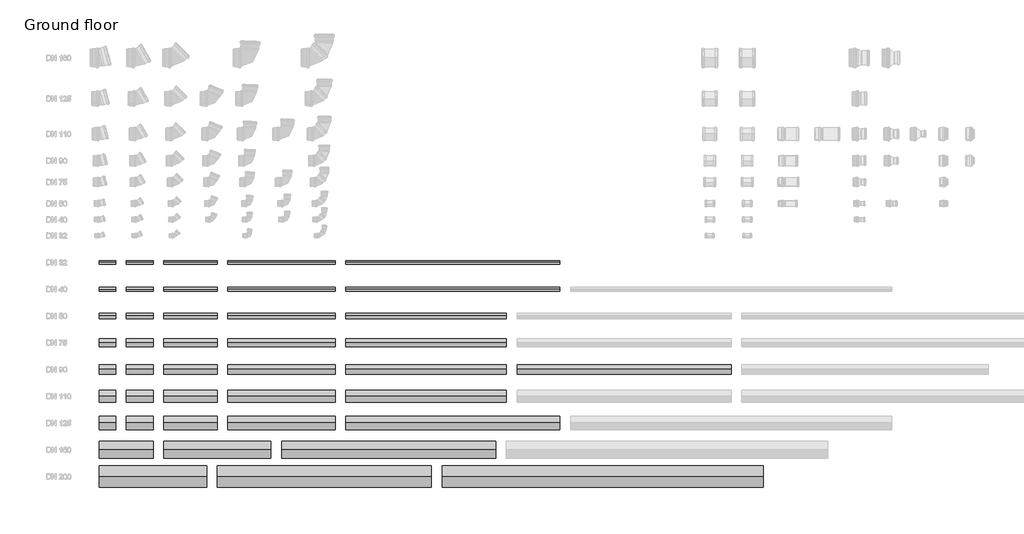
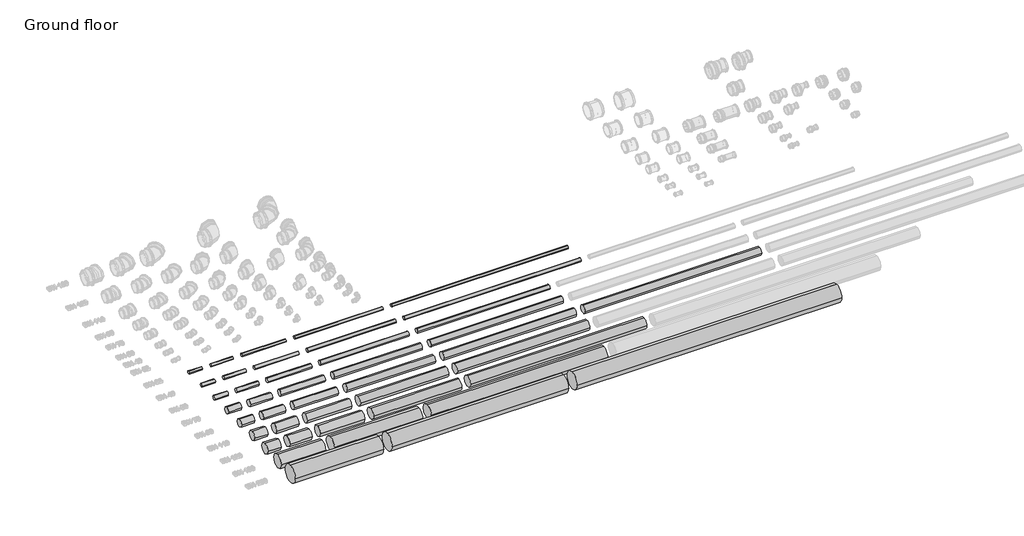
# One storey, part 1 of 9: 42 pipe segments.
"""IFC4 building model written with IfcOpenShell, lengths in millimetres."""

from ifc_helpers import new_model, si_unit, point, frame, frame_2d, origin, place, context, project, spatial, circle_curve, trimmed, segment, composite_curve, outline, extrude, element, save

model = new_model("IFC4")

# Units and contexts
model_context = context("Model", 3, world=origin())
ifc_project = project(units=[si_unit("LENGTHUNIT", "METRE", prefix="MILLI")], contexts=[model_context])

# Site, building, storey
site = spatial("IfcSite", under=ifc_project)
building = spatial("IfcBuilding", under=site)
storey = spatial("IfcBuildingStorey", under=building, Name="Ground floor", Elevation=0.0)

# Pipe segments
placement = place(None, origin())
element("IfcPipeSegment", 1, ObjectType="RAUPIANO PLUS", at=placement, inside=storey, context=model_context, shape_type="SweptSolid", body=[
    extrude(outline(composite_curve([segment(trimmed(circle_curve(frame_2d((-250.0, 0.0)), 16.0), [point((-266.0, 0.0))], [point((-250.0, 16.0))], False, "CARTESIAN"), True, "CONTINUOUS"), segment(trimmed(circle_curve(frame_2d((-250.0, 0.0)), 16.0), [point((-250.0, 16.0))], [point((-234.0, 0.0))], False, "CARTESIAN"), True, "CONTINUOUS"), segment(trimmed(circle_curve(frame_2d((-250.0, 0.0)), 16.0), [point((-234.0, 0.0))], [point((-250.0, -16.0))], False, "CARTESIAN"), True, "CONTINUOUS"), segment(trimmed(circle_curve(frame_2d((-250.0, 0.0)), 16.0), [point((-250.0, -16.0))], [point((-266.0, 0.0))], False, "CARTESIAN"), True, "CONTINUOUS")], self_intersect=False)), frame((0.0, 0.0, 0.0), z_axis=(1.0, 0.0, 0.0), x_axis=(0.0, 1.0, 0.0)), (0.0, 0.0, 1.0), 150.0),
])
element("IfcPipeSegment", 2, ObjectType="RAUPIANO PLUS", at=placement, inside=storey, context=model_context, shape_type="SweptSolid", body=[
    extrude(outline(composite_curve([segment(trimmed(circle_curve(frame_2d((-250.0, 0.0)), 16.0), [point((-266.0, 0.0))], [point((-250.0, 16.0))], False, "CARTESIAN"), True, "CONTINUOUS"), segment(trimmed(circle_curve(frame_2d((-250.0, 0.0)), 16.0), [point((-250.0, 16.0))], [point((-234.0, 0.0))], False, "CARTESIAN"), True, "CONTINUOUS"), segment(trimmed(circle_curve(frame_2d((-250.0, 0.0)), 16.0), [point((-234.0, 0.0))], [point((-250.0, -16.0))], False, "CARTESIAN"), True, "CONTINUOUS"), segment(trimmed(circle_curve(frame_2d((-250.0, 0.0)), 16.0), [point((-250.0, -16.0))], [point((-266.0, 0.0))], False, "CARTESIAN"), True, "CONTINUOUS")], self_intersect=False)), frame((250.0, 0.0, 0.0), z_axis=(1.0, 0.0, 0.0), x_axis=(0.0, 1.0, 0.0)), (0.0, 0.0, 1.0), 250.0),
])
element("IfcPipeSegment", 3, ObjectType="RAUPIANO PLUS", at=placement, inside=storey, context=model_context, shape_type="SweptSolid", body=[
    extrude(outline(composite_curve([segment(trimmed(circle_curve(frame_2d((-250.0, 0.0)), 16.0), [point((-266.0, 0.0))], [point((-250.0, 16.0))], False, "CARTESIAN"), True, "CONTINUOUS"), segment(trimmed(circle_curve(frame_2d((-250.0, 0.0)), 16.0), [point((-250.0, 16.0))], [point((-234.0, 0.0))], False, "CARTESIAN"), True, "CONTINUOUS"), segment(trimmed(circle_curve(frame_2d((-250.0, 0.0)), 16.0), [point((-234.0, 0.0))], [point((-250.0, -16.0))], False, "CARTESIAN"), True, "CONTINUOUS"), segment(trimmed(circle_curve(frame_2d((-250.0, 0.0)), 16.0), [point((-250.0, -16.0))], [point((-266.0, 0.0))], False, "CARTESIAN"), True, "CONTINUOUS")], self_intersect=False)), frame((600.0, 0.0, 0.0), z_axis=(1.0, 0.0, 0.0), x_axis=(0.0, 1.0, 0.0)), (0.0, 0.0, 1.0), 500.0),
])
element("IfcPipeSegment", 4, ObjectType="RAUPIANO PLUS", at=placement, inside=storey, context=model_context, shape_type="SweptSolid", body=[
    extrude(outline(composite_curve([segment(trimmed(circle_curve(frame_2d((-250.0, 0.0)), 16.0), [point((-266.0, 0.0))], [point((-250.0, 16.0))], False, "CARTESIAN"), True, "CONTINUOUS"), segment(trimmed(circle_curve(frame_2d((-250.0, 0.0)), 16.0), [point((-250.0, 16.0))], [point((-234.0, 0.0))], False, "CARTESIAN"), True, "CONTINUOUS"), segment(trimmed(circle_curve(frame_2d((-250.0, 0.0)), 16.0), [point((-234.0, 0.0))], [point((-250.0, -16.0))], False, "CARTESIAN"), True, "CONTINUOUS"), segment(trimmed(circle_curve(frame_2d((-250.0, 0.0)), 16.0), [point((-250.0, -16.0))], [point((-266.0, 0.0))], False, "CARTESIAN"), True, "CONTINUOUS")], self_intersect=False)), frame((1200.0, 0.0, 0.0), z_axis=(1.0, 0.0, 0.0), x_axis=(0.0, 1.0, 0.0)), (0.0, 0.0, 1.0), 1000.0),
])
element("IfcPipeSegment", 5, ObjectType="RAUPIANO PLUS", at=placement, inside=storey, context=model_context, shape_type="SweptSolid", body=[
    extrude(outline(composite_curve([segment(trimmed(circle_curve(frame_2d((-250.0, 0.0)), 16.0), [point((-266.0, 0.0))], [point((-250.0, 16.0))], False, "CARTESIAN"), True, "CONTINUOUS"), segment(trimmed(circle_curve(frame_2d((-250.0, 0.0)), 16.0), [point((-250.0, 16.0))], [point((-234.0, 0.0))], False, "CARTESIAN"), True, "CONTINUOUS"), segment(trimmed(circle_curve(frame_2d((-250.0, 0.0)), 16.0), [point((-234.0, 0.0))], [point((-250.0, -16.0))], False, "CARTESIAN"), True, "CONTINUOUS"), segment(trimmed(circle_curve(frame_2d((-250.0, 0.0)), 16.0), [point((-250.0, -16.0))], [point((-266.0, 0.0))], False, "CARTESIAN"), True, "CONTINUOUS")], self_intersect=False)), frame((2300.0, 0.0, 0.0), z_axis=(1.0, 0.0, 0.0), x_axis=(0.0, 1.0, 0.0)), (0.0, 0.0, 1.0), 2000.0),
])
element("IfcPipeSegment", 6, ObjectType="RAUPIANO PLUS", at=placement, inside=storey, context=model_context, shape_type="SweptSolid", body=[
    extrude(outline(composite_curve([segment(trimmed(circle_curve(frame_2d((-500.0, 0.0)), 20.0), [point((-520.0, 0.0))], [point((-500.0, 20.0))], False, "CARTESIAN"), True, "CONTINUOUS"), segment(trimmed(circle_curve(frame_2d((-500.0, 0.0)), 20.0), [point((-500.0, 20.0))], [point((-480.0, 0.0))], False, "CARTESIAN"), True, "CONTINUOUS"), segment(trimmed(circle_curve(frame_2d((-500.0, 0.0)), 20.0), [point((-480.0, 0.0))], [point((-500.0, -20.0))], False, "CARTESIAN"), True, "CONTINUOUS"), segment(trimmed(circle_curve(frame_2d((-500.0, 0.0)), 20.0), [point((-500.0, -20.0))], [point((-520.0, 0.0))], False, "CARTESIAN"), True, "CONTINUOUS")], self_intersect=False)), frame((0.0, 0.0, 0.0), z_axis=(1.0, 0.0, 0.0), x_axis=(0.0, 1.0, 0.0)), (0.0, 0.0, 1.0), 150.0),
])
element("IfcPipeSegment", 7, ObjectType="RAUPIANO PLUS", at=placement, inside=storey, context=model_context, shape_type="SweptSolid", body=[
    extrude(outline(composite_curve([segment(trimmed(circle_curve(frame_2d((-500.0, 0.0)), 20.0), [point((-520.0, 0.0))], [point((-500.0, 20.0))], False, "CARTESIAN"), True, "CONTINUOUS"), segment(trimmed(circle_curve(frame_2d((-500.0, 0.0)), 20.0), [point((-500.0, 20.0))], [point((-480.0, 0.0))], False, "CARTESIAN"), True, "CONTINUOUS"), segment(trimmed(circle_curve(frame_2d((-500.0, 0.0)), 20.0), [point((-480.0, 0.0))], [point((-500.0, -20.0))], False, "CARTESIAN"), True, "CONTINUOUS"), segment(trimmed(circle_curve(frame_2d((-500.0, 0.0)), 20.0), [point((-500.0, -20.0))], [point((-520.0, 0.0))], False, "CARTESIAN"), True, "CONTINUOUS")], self_intersect=False)), frame((250.0, 0.0, 0.0), z_axis=(1.0, 0.0, 0.0), x_axis=(0.0, 1.0, 0.0)), (0.0, 0.0, 1.0), 250.0),
])
element("IfcPipeSegment", 8, ObjectType="RAUPIANO PLUS", at=placement, inside=storey, context=model_context, shape_type="SweptSolid", body=[
    extrude(outline(composite_curve([segment(trimmed(circle_curve(frame_2d((-500.0, 0.0)), 20.0), [point((-520.0, 0.0))], [point((-500.0, 20.0))], False, "CARTESIAN"), True, "CONTINUOUS"), segment(trimmed(circle_curve(frame_2d((-500.0, 0.0)), 20.0), [point((-500.0, 20.0))], [point((-480.0, 0.0))], False, "CARTESIAN"), True, "CONTINUOUS"), segment(trimmed(circle_curve(frame_2d((-500.0, 0.0)), 20.0), [point((-480.0, 0.0))], [point((-500.0, -20.0))], False, "CARTESIAN"), True, "CONTINUOUS"), segment(trimmed(circle_curve(frame_2d((-500.0, 0.0)), 20.0), [point((-500.0, -20.0))], [point((-520.0, 0.0))], False, "CARTESIAN"), True, "CONTINUOUS")], self_intersect=False)), frame((600.0, 0.0, 0.0), z_axis=(1.0, 0.0, 0.0), x_axis=(0.0, 1.0, 0.0)), (0.0, 0.0, 1.0), 500.0),
])
element("IfcPipeSegment", 9, ObjectType="RAUPIANO PLUS", at=placement, inside=storey, context=model_context, shape_type="SweptSolid", body=[
    extrude(outline(composite_curve([segment(trimmed(circle_curve(frame_2d((-500.0, 0.0)), 20.0), [point((-520.0, 0.0))], [point((-500.0, 20.0))], False, "CARTESIAN"), True, "CONTINUOUS"), segment(trimmed(circle_curve(frame_2d((-500.0, 0.0)), 20.0), [point((-500.0, 20.0))], [point((-480.0, 0.0))], False, "CARTESIAN"), True, "CONTINUOUS"), segment(trimmed(circle_curve(frame_2d((-500.0, 0.0)), 20.0), [point((-480.0, 0.0))], [point((-500.0, -20.0))], False, "CARTESIAN"), True, "CONTINUOUS"), segment(trimmed(circle_curve(frame_2d((-500.0, 0.0)), 20.0), [point((-500.0, -20.0))], [point((-520.0, 0.0))], False, "CARTESIAN"), True, "CONTINUOUS")], self_intersect=False)), frame((1200.0, 0.0, 0.0), z_axis=(1.0, 0.0, 0.0), x_axis=(0.0, 1.0, 0.0)), (0.0, 0.0, 1.0), 1000.0),
])
element("IfcPipeSegment", 10, ObjectType="RAUPIANO PLUS", at=placement, inside=storey, context=model_context, shape_type="SweptSolid", body=[
    extrude(outline(composite_curve([segment(trimmed(circle_curve(frame_2d((-500.0, 0.0)), 20.0), [point((-520.0, 0.0))], [point((-500.0, 20.0))], False, "CARTESIAN"), True, "CONTINUOUS"), segment(trimmed(circle_curve(frame_2d((-500.0, 0.0)), 20.0), [point((-500.0, 20.0))], [point((-480.0, 0.0))], False, "CARTESIAN"), True, "CONTINUOUS"), segment(trimmed(circle_curve(frame_2d((-500.0, 0.0)), 20.0), [point((-480.0, 0.0))], [point((-500.0, -20.0))], False, "CARTESIAN"), True, "CONTINUOUS"), segment(trimmed(circle_curve(frame_2d((-500.0, 0.0)), 20.0), [point((-500.0, -20.0))], [point((-520.0, 0.0))], False, "CARTESIAN"), True, "CONTINUOUS")], self_intersect=False)), frame((2300.0, 0.0, 0.0), z_axis=(1.0, 0.0, 0.0), x_axis=(0.0, 1.0, 0.0)), (0.0, 0.0, 1.0), 2000.0),
])
element("IfcPipeSegment", 11, ObjectType="RAUPIANO PLUS", at=placement, inside=storey, context=model_context, shape_type="SweptSolid", body=[
    extrude(outline(composite_curve([segment(trimmed(circle_curve(frame_2d((-750.0, 0.0)), 25.0), [point((-775.0, 0.0))], [point((-750.0, 25.0))], False, "CARTESIAN"), True, "CONTINUOUS"), segment(trimmed(circle_curve(frame_2d((-750.0, 0.0)), 25.0), [point((-750.0, 25.0))], [point((-725.0, 0.0))], False, "CARTESIAN"), True, "CONTINUOUS"), segment(trimmed(circle_curve(frame_2d((-750.0, 0.0)), 25.0), [point((-725.0, 0.0))], [point((-750.0, -25.0))], False, "CARTESIAN"), True, "CONTINUOUS"), segment(trimmed(circle_curve(frame_2d((-750.0, 0.0)), 25.0), [point((-750.0, -25.0))], [point((-775.0, 0.0))], False, "CARTESIAN"), True, "CONTINUOUS")], self_intersect=False)), frame((0.0, 0.0, 0.0), z_axis=(1.0, 0.0, 0.0), x_axis=(0.0, 1.0, 0.0)), (0.0, 0.0, 1.0), 150.0),
])
element("IfcPipeSegment", 12, ObjectType="RAUPIANO PLUS", at=placement, inside=storey, context=model_context, shape_type="SweptSolid", body=[
    extrude(outline(composite_curve([segment(trimmed(circle_curve(frame_2d((-750.0, 0.0)), 25.0), [point((-775.0, 0.0))], [point((-750.0, 25.0))], False, "CARTESIAN"), True, "CONTINUOUS"), segment(trimmed(circle_curve(frame_2d((-750.0, 0.0)), 25.0), [point((-750.0, 25.0))], [point((-725.0, 0.0))], False, "CARTESIAN"), True, "CONTINUOUS"), segment(trimmed(circle_curve(frame_2d((-750.0, 0.0)), 25.0), [point((-725.0, 0.0))], [point((-750.0, -25.0))], False, "CARTESIAN"), True, "CONTINUOUS"), segment(trimmed(circle_curve(frame_2d((-750.0, 0.0)), 25.0), [point((-750.0, -25.0))], [point((-775.0, 0.0))], False, "CARTESIAN"), True, "CONTINUOUS")], self_intersect=False)), frame((250.0, 0.0, 0.0), z_axis=(1.0, 0.0, 0.0), x_axis=(0.0, 1.0, 0.0)), (0.0, 0.0, 1.0), 250.0),
])
element("IfcPipeSegment", 13, ObjectType="RAUPIANO PLUS", at=placement, inside=storey, context=model_context, shape_type="SweptSolid", body=[
    extrude(outline(composite_curve([segment(trimmed(circle_curve(frame_2d((-750.0, 0.0)), 25.0), [point((-775.0, 0.0))], [point((-750.0, 25.0))], False, "CARTESIAN"), True, "CONTINUOUS"), segment(trimmed(circle_curve(frame_2d((-750.0, 0.0)), 25.0), [point((-750.0, 25.0))], [point((-725.0, 0.0))], False, "CARTESIAN"), True, "CONTINUOUS"), segment(trimmed(circle_curve(frame_2d((-750.0, 0.0)), 25.0), [point((-725.0, 0.0))], [point((-750.0, -25.0))], False, "CARTESIAN"), True, "CONTINUOUS"), segment(trimmed(circle_curve(frame_2d((-750.0, 0.0)), 25.0), [point((-750.0, -25.0))], [point((-775.0, 0.0))], False, "CARTESIAN"), True, "CONTINUOUS")], self_intersect=False)), frame((600.0, 0.0, 0.0), z_axis=(1.0, 0.0, 0.0), x_axis=(0.0, 1.0, 0.0)), (0.0, 0.0, 1.0), 500.0),
])
element("IfcPipeSegment", 14, ObjectType="RAUPIANO PLUS", at=placement, inside=storey, context=model_context, shape_type="SweptSolid", body=[
    extrude(outline(composite_curve([segment(trimmed(circle_curve(frame_2d((-750.0, 0.0)), 25.0), [point((-775.0, 0.0))], [point((-750.0, 25.0))], False, "CARTESIAN"), True, "CONTINUOUS"), segment(trimmed(circle_curve(frame_2d((-750.0, 0.0)), 25.0), [point((-750.0, 25.0))], [point((-725.0, 0.0))], False, "CARTESIAN"), True, "CONTINUOUS"), segment(trimmed(circle_curve(frame_2d((-750.0, 0.0)), 25.0), [point((-725.0, 0.0))], [point((-750.0, -25.0))], False, "CARTESIAN"), True, "CONTINUOUS"), segment(trimmed(circle_curve(frame_2d((-750.0, 0.0)), 25.0), [point((-750.0, -25.0))], [point((-775.0, 0.0))], False, "CARTESIAN"), True, "CONTINUOUS")], self_intersect=False)), frame((1200.0, 0.0, 0.0), z_axis=(1.0, 0.0, 0.0), x_axis=(0.0, 1.0, 0.0)), (0.0, 0.0, 1.0), 1000.0),
])
element("IfcPipeSegment", 15, ObjectType="RAUPIANO PLUS", at=placement, inside=storey, context=model_context, shape_type="SweptSolid", body=[
    extrude(outline(composite_curve([segment(trimmed(circle_curve(frame_2d((-750.0, 0.0)), 25.0), [point((-775.0, 0.0))], [point((-750.0, 25.0))], False, "CARTESIAN"), True, "CONTINUOUS"), segment(trimmed(circle_curve(frame_2d((-750.0, 0.0)), 25.0), [point((-750.0, 25.0))], [point((-725.0, 0.0))], False, "CARTESIAN"), True, "CONTINUOUS"), segment(trimmed(circle_curve(frame_2d((-750.0, 0.0)), 25.0), [point((-725.0, 0.0))], [point((-750.0, -25.0))], False, "CARTESIAN"), True, "CONTINUOUS"), segment(trimmed(circle_curve(frame_2d((-750.0, 0.0)), 25.0), [point((-750.0, -25.0))], [point((-775.0, 0.0))], False, "CARTESIAN"), True, "CONTINUOUS")], self_intersect=False)), frame((2300.0, 0.0, 0.0), z_axis=(1.0, 0.0, 0.0), x_axis=(0.0, 1.0, 0.0)), (0.0, 0.0, 1.0), 1500.0),
])
element("IfcPipeSegment", 16, ObjectType="RAUPIANO PLUS", at=placement, inside=storey, context=model_context, shape_type="SweptSolid", body=[
    extrude(outline(composite_curve([segment(trimmed(circle_curve(frame_2d((-1000.0, 0.0)), 37.5), [point((-1037.5, 0.0))], [point((-1000.0, 37.5))], False, "CARTESIAN"), True, "CONTINUOUS"), segment(trimmed(circle_curve(frame_2d((-1000.0, 0.0)), 37.5), [point((-1000.0, 37.5))], [point((-962.5, 0.0))], False, "CARTESIAN"), True, "CONTINUOUS"), segment(trimmed(circle_curve(frame_2d((-1000.0, 0.0)), 37.5), [point((-962.5, 0.0))], [point((-1000.0, -37.5))], False, "CARTESIAN"), True, "CONTINUOUS"), segment(trimmed(circle_curve(frame_2d((-1000.0, 0.0)), 37.5), [point((-1000.0, -37.5))], [point((-1037.5, 0.0))], False, "CARTESIAN"), True, "CONTINUOUS")], self_intersect=False)), frame((0.0, 0.0, 0.0), z_axis=(1.0, 0.0, 0.0), x_axis=(0.0, 1.0, 0.0)), (0.0, 0.0, 1.0), 150.0),
])
element("IfcPipeSegment", 17, ObjectType="RAUPIANO PLUS", at=placement, inside=storey, context=model_context, shape_type="SweptSolid", body=[
    extrude(outline(composite_curve([segment(trimmed(circle_curve(frame_2d((-1000.0, 0.0)), 37.5), [point((-1037.5, 0.0))], [point((-1000.0, 37.5))], False, "CARTESIAN"), True, "CONTINUOUS"), segment(trimmed(circle_curve(frame_2d((-1000.0, 0.0)), 37.5), [point((-1000.0, 37.5))], [point((-962.5, 0.0))], False, "CARTESIAN"), True, "CONTINUOUS"), segment(trimmed(circle_curve(frame_2d((-1000.0, 0.0)), 37.5), [point((-962.5, 0.0))], [point((-1000.0, -37.5))], False, "CARTESIAN"), True, "CONTINUOUS"), segment(trimmed(circle_curve(frame_2d((-1000.0, 0.0)), 37.5), [point((-1000.0, -37.5))], [point((-1037.5, 0.0))], False, "CARTESIAN"), True, "CONTINUOUS")], self_intersect=False)), frame((250.0, 0.0, 0.0), z_axis=(1.0, 0.0, 0.0), x_axis=(0.0, 1.0, 0.0)), (0.0, 0.0, 1.0), 250.0),
])
element("IfcPipeSegment", 18, ObjectType="RAUPIANO PLUS", at=placement, inside=storey, context=model_context, shape_type="SweptSolid", body=[
    extrude(outline(composite_curve([segment(trimmed(circle_curve(frame_2d((-1000.0, 0.0)), 37.5), [point((-1037.5, 0.0))], [point((-1000.0, 37.5))], False, "CARTESIAN"), True, "CONTINUOUS"), segment(trimmed(circle_curve(frame_2d((-1000.0, 0.0)), 37.5), [point((-1000.0, 37.5))], [point((-962.5, 0.0))], False, "CARTESIAN"), True, "CONTINUOUS"), segment(trimmed(circle_curve(frame_2d((-1000.0, 0.0)), 37.5), [point((-962.5, 0.0))], [point((-1000.0, -37.5))], False, "CARTESIAN"), True, "CONTINUOUS"), segment(trimmed(circle_curve(frame_2d((-1000.0, 0.0)), 37.5), [point((-1000.0, -37.5))], [point((-1037.5, 0.0))], False, "CARTESIAN"), True, "CONTINUOUS")], self_intersect=False)), frame((600.0, 0.0, 0.0), z_axis=(1.0, 0.0, 0.0), x_axis=(0.0, 1.0, 0.0)), (0.0, 0.0, 1.0), 500.0),
])
element("IfcPipeSegment", 19, ObjectType="RAUPIANO PLUS", at=placement, inside=storey, context=model_context, shape_type="SweptSolid", body=[
    extrude(outline(composite_curve([segment(trimmed(circle_curve(frame_2d((-1000.0, 0.0)), 37.5), [point((-1037.5, 0.0))], [point((-1000.0, 37.5))], False, "CARTESIAN"), True, "CONTINUOUS"), segment(trimmed(circle_curve(frame_2d((-1000.0, 0.0)), 37.5), [point((-1000.0, 37.5))], [point((-962.5, 0.0))], False, "CARTESIAN"), True, "CONTINUOUS"), segment(trimmed(circle_curve(frame_2d((-1000.0, 0.0)), 37.5), [point((-962.5, 0.0))], [point((-1000.0, -37.5))], False, "CARTESIAN"), True, "CONTINUOUS"), segment(trimmed(circle_curve(frame_2d((-1000.0, 0.0)), 37.5), [point((-1000.0, -37.5))], [point((-1037.5, 0.0))], False, "CARTESIAN"), True, "CONTINUOUS")], self_intersect=False)), frame((1200.0, 0.0, 0.0), z_axis=(1.0, 0.0, 0.0), x_axis=(0.0, 1.0, 0.0)), (0.0, 0.0, 1.0), 1000.0),
])
element("IfcPipeSegment", 20, ObjectType="RAUPIANO PLUS", at=placement, inside=storey, context=model_context, shape_type="SweptSolid", body=[
    extrude(outline(composite_curve([segment(trimmed(circle_curve(frame_2d((-1000.0, 0.0)), 37.5), [point((-1037.5, 0.0))], [point((-1000.0, 37.5))], False, "CARTESIAN"), True, "CONTINUOUS"), segment(trimmed(circle_curve(frame_2d((-1000.0, 0.0)), 37.5), [point((-1000.0, 37.5))], [point((-962.5, 0.0))], False, "CARTESIAN"), True, "CONTINUOUS"), segment(trimmed(circle_curve(frame_2d((-1000.0, 0.0)), 37.5), [point((-962.5, 0.0))], [point((-1000.0, -37.5))], False, "CARTESIAN"), True, "CONTINUOUS"), segment(trimmed(circle_curve(frame_2d((-1000.0, 0.0)), 37.5), [point((-1000.0, -37.5))], [point((-1037.5, 0.0))], False, "CARTESIAN"), True, "CONTINUOUS")], self_intersect=False)), frame((2300.0, 0.0, 0.0), z_axis=(1.0, 0.0, 0.0), x_axis=(0.0, 1.0, 0.0)), (0.0, 0.0, 1.0), 1500.0),
])
element("IfcPipeSegment", 21, ObjectType="RAUPIANO PLUS", at=placement, inside=storey, context=model_context, shape_type="SweptSolid", body=[
    extrude(outline(composite_curve([segment(trimmed(circle_curve(frame_2d((-1250.0, 0.0)), 45.0), [point((-1295.0, 0.0))], [point((-1250.0, 45.0))], False, "CARTESIAN"), True, "CONTINUOUS"), segment(trimmed(circle_curve(frame_2d((-1250.0, 0.0)), 45.0), [point((-1250.0, 45.0))], [point((-1205.0, 0.0))], False, "CARTESIAN"), True, "CONTINUOUS"), segment(trimmed(circle_curve(frame_2d((-1250.0, 0.0)), 45.0), [point((-1205.0, 0.0))], [point((-1250.0, -45.0))], False, "CARTESIAN"), True, "CONTINUOUS"), segment(trimmed(circle_curve(frame_2d((-1250.0, 0.0)), 45.0), [point((-1250.0, -45.0))], [point((-1295.0, 0.0))], False, "CARTESIAN"), True, "CONTINUOUS")], self_intersect=False)), frame((0.0, 0.0, 0.0), z_axis=(1.0, 0.0, 0.0), x_axis=(0.0, 1.0, 0.0)), (0.0, 0.0, 1.0), 150.0),
])
element("IfcPipeSegment", 22, ObjectType="RAUPIANO PLUS", at=placement, inside=storey, context=model_context, shape_type="SweptSolid", body=[
    extrude(outline(composite_curve([segment(trimmed(circle_curve(frame_2d((-1250.0, 0.0)), 45.0), [point((-1295.0, 0.0))], [point((-1250.0, 45.0))], False, "CARTESIAN"), True, "CONTINUOUS"), segment(trimmed(circle_curve(frame_2d((-1250.0, 0.0)), 45.0), [point((-1250.0, 45.0))], [point((-1205.0, 0.0))], False, "CARTESIAN"), True, "CONTINUOUS"), segment(trimmed(circle_curve(frame_2d((-1250.0, 0.0)), 45.0), [point((-1205.0, 0.0))], [point((-1250.0, -45.0))], False, "CARTESIAN"), True, "CONTINUOUS"), segment(trimmed(circle_curve(frame_2d((-1250.0, 0.0)), 45.0), [point((-1250.0, -45.0))], [point((-1295.0, 0.0))], False, "CARTESIAN"), True, "CONTINUOUS")], self_intersect=False)), frame((250.0, 0.0, 0.0), z_axis=(1.0, 0.0, 0.0), x_axis=(0.0, 1.0, 0.0)), (0.0, 0.0, 1.0), 250.0),
])
element("IfcPipeSegment", 23, ObjectType="RAUPIANO PLUS", at=placement, inside=storey, context=model_context, shape_type="SweptSolid", body=[
    extrude(outline(composite_curve([segment(trimmed(circle_curve(frame_2d((-1250.0, 0.0)), 45.0), [point((-1295.0, 0.0))], [point((-1250.0, 45.0))], False, "CARTESIAN"), True, "CONTINUOUS"), segment(trimmed(circle_curve(frame_2d((-1250.0, 0.0)), 45.0), [point((-1250.0, 45.0))], [point((-1205.0, 0.0))], False, "CARTESIAN"), True, "CONTINUOUS"), segment(trimmed(circle_curve(frame_2d((-1250.0, 0.0)), 45.0), [point((-1205.0, 0.0))], [point((-1250.0, -45.0))], False, "CARTESIAN"), True, "CONTINUOUS"), segment(trimmed(circle_curve(frame_2d((-1250.0, 0.0)), 45.0), [point((-1250.0, -45.0))], [point((-1295.0, 0.0))], False, "CARTESIAN"), True, "CONTINUOUS")], self_intersect=False)), frame((600.0, 0.0, 0.0), z_axis=(1.0, 0.0, 0.0), x_axis=(0.0, 1.0, 0.0)), (0.0, 0.0, 1.0), 500.0),
])
element("IfcPipeSegment", 24, ObjectType="RAUPIANO PLUS", at=placement, inside=storey, context=model_context, shape_type="SweptSolid", body=[
    extrude(outline(composite_curve([segment(trimmed(circle_curve(frame_2d((-1250.0, 0.0)), 45.0), [point((-1295.0, 0.0))], [point((-1250.0, 45.0))], False, "CARTESIAN"), True, "CONTINUOUS"), segment(trimmed(circle_curve(frame_2d((-1250.0, 0.0)), 45.0), [point((-1250.0, 45.0))], [point((-1205.0, 0.0))], False, "CARTESIAN"), True, "CONTINUOUS"), segment(trimmed(circle_curve(frame_2d((-1250.0, 0.0)), 45.0), [point((-1205.0, 0.0))], [point((-1250.0, -45.0))], False, "CARTESIAN"), True, "CONTINUOUS"), segment(trimmed(circle_curve(frame_2d((-1250.0, 0.0)), 45.0), [point((-1250.0, -45.0))], [point((-1295.0, 0.0))], False, "CARTESIAN"), True, "CONTINUOUS")], self_intersect=False)), frame((1200.0, 0.0, 0.0), z_axis=(1.0, 0.0, 0.0), x_axis=(0.0, 1.0, 0.0)), (0.0, 0.0, 1.0), 1000.0),
])
element("IfcPipeSegment", 25, ObjectType="RAUPIANO PLUS", at=placement, inside=storey, context=model_context, shape_type="SweptSolid", body=[
    extrude(outline(composite_curve([segment(trimmed(circle_curve(frame_2d((-1250.0, 0.0)), 45.0), [point((-1295.0, 0.0))], [point((-1250.0, 45.0))], False, "CARTESIAN"), True, "CONTINUOUS"), segment(trimmed(circle_curve(frame_2d((-1250.0, 0.0)), 45.0), [point((-1250.0, 45.0))], [point((-1205.0, 0.0))], False, "CARTESIAN"), True, "CONTINUOUS"), segment(trimmed(circle_curve(frame_2d((-1250.0, 0.0)), 45.0), [point((-1205.0, 0.0))], [point((-1250.0, -45.0))], False, "CARTESIAN"), True, "CONTINUOUS"), segment(trimmed(circle_curve(frame_2d((-1250.0, 0.0)), 45.0), [point((-1250.0, -45.0))], [point((-1295.0, 0.0))], False, "CARTESIAN"), True, "CONTINUOUS")], self_intersect=False)), frame((3900.0, 0.0, 0.0), z_axis=(1.0, 0.0, 0.0), x_axis=(0.0, 1.0, 0.0)), (0.0, 0.0, 1.0), 2000.0),
])
element("IfcPipeSegment", 26, ObjectType="RAUPIANO PLUS", at=placement, inside=storey, context=model_context, shape_type="SweptSolid", body=[
    extrude(outline(composite_curve([segment(trimmed(circle_curve(frame_2d((-1250.0, 0.0)), 45.0), [point((-1295.0, 0.0))], [point((-1250.0, 45.0))], False, "CARTESIAN"), True, "CONTINUOUS"), segment(trimmed(circle_curve(frame_2d((-1250.0, 0.0)), 45.0), [point((-1250.0, 45.0))], [point((-1205.0, 0.0))], False, "CARTESIAN"), True, "CONTINUOUS"), segment(trimmed(circle_curve(frame_2d((-1250.0, 0.0)), 45.0), [point((-1205.0, 0.0))], [point((-1250.0, -45.0))], False, "CARTESIAN"), True, "CONTINUOUS"), segment(trimmed(circle_curve(frame_2d((-1250.0, 0.0)), 45.0), [point((-1250.0, -45.0))], [point((-1295.0, 0.0))], False, "CARTESIAN"), True, "CONTINUOUS")], self_intersect=False)), frame((2300.0, 0.0, 0.0), z_axis=(1.0, 0.0, 0.0), x_axis=(0.0, 1.0, 0.0)), (0.0, 0.0, 1.0), 1500.0),
])
element("IfcPipeSegment", 27, ObjectType="RAUPIANO PLUS", at=placement, inside=storey, context=model_context, shape_type="SweptSolid", body=[
    extrude(outline(composite_curve([segment(trimmed(circle_curve(frame_2d((-1500.0, 0.0)), 55.0), [point((-1555.0, 0.0))], [point((-1500.0, 55.0))], False, "CARTESIAN"), True, "CONTINUOUS"), segment(trimmed(circle_curve(frame_2d((-1500.0, 0.0)), 55.0), [point((-1500.0, 55.0))], [point((-1445.0, 0.0))], False, "CARTESIAN"), True, "CONTINUOUS"), segment(trimmed(circle_curve(frame_2d((-1500.0, 0.0)), 55.0), [point((-1445.0, 0.0))], [point((-1500.0, -55.0))], False, "CARTESIAN"), True, "CONTINUOUS"), segment(trimmed(circle_curve(frame_2d((-1500.0, 0.0)), 55.0), [point((-1500.0, -55.0))], [point((-1555.0, 0.0))], False, "CARTESIAN"), True, "CONTINUOUS")], self_intersect=False)), frame((0.0, 0.0, 0.0), z_axis=(1.0, 0.0, 0.0), x_axis=(0.0, 1.0, 0.0)), (0.0, 0.0, 1.0), 150.0),
])
element("IfcPipeSegment", 28, ObjectType="RAUPIANO PLUS", at=placement, inside=storey, context=model_context, shape_type="SweptSolid", body=[
    extrude(outline(composite_curve([segment(trimmed(circle_curve(frame_2d((-1500.0, 0.0)), 55.0), [point((-1555.0, 0.0))], [point((-1500.0, 55.0))], False, "CARTESIAN"), True, "CONTINUOUS"), segment(trimmed(circle_curve(frame_2d((-1500.0, 0.0)), 55.0), [point((-1500.0, 55.0))], [point((-1445.0, 0.0))], False, "CARTESIAN"), True, "CONTINUOUS"), segment(trimmed(circle_curve(frame_2d((-1500.0, 0.0)), 55.0), [point((-1445.0, 0.0))], [point((-1500.0, -55.0))], False, "CARTESIAN"), True, "CONTINUOUS"), segment(trimmed(circle_curve(frame_2d((-1500.0, 0.0)), 55.0), [point((-1500.0, -55.0))], [point((-1555.0, 0.0))], False, "CARTESIAN"), True, "CONTINUOUS")], self_intersect=False)), frame((250.0, 0.0, 0.0), z_axis=(1.0, 0.0, 0.0), x_axis=(0.0, 1.0, 0.0)), (0.0, 0.0, 1.0), 250.0),
])
element("IfcPipeSegment", 29, ObjectType="RAUPIANO PLUS", at=placement, inside=storey, context=model_context, shape_type="SweptSolid", body=[
    extrude(outline(composite_curve([segment(trimmed(circle_curve(frame_2d((-1500.0, 0.0)), 55.0), [point((-1555.0, 0.0))], [point((-1500.0, 55.0))], False, "CARTESIAN"), True, "CONTINUOUS"), segment(trimmed(circle_curve(frame_2d((-1500.0, 0.0)), 55.0), [point((-1500.0, 55.0))], [point((-1445.0, 0.0))], False, "CARTESIAN"), True, "CONTINUOUS"), segment(trimmed(circle_curve(frame_2d((-1500.0, 0.0)), 55.0), [point((-1445.0, 0.0))], [point((-1500.0, -55.0))], False, "CARTESIAN"), True, "CONTINUOUS"), segment(trimmed(circle_curve(frame_2d((-1500.0, 0.0)), 55.0), [point((-1500.0, -55.0))], [point((-1555.0, 0.0))], False, "CARTESIAN"), True, "CONTINUOUS")], self_intersect=False)), frame((600.0, 0.0, 0.0), z_axis=(1.0, 0.0, 0.0), x_axis=(0.0, 1.0, 0.0)), (0.0, 0.0, 1.0), 500.0),
])
element("IfcPipeSegment", 30, ObjectType="RAUPIANO PLUS", at=placement, inside=storey, context=model_context, shape_type="SweptSolid", body=[
    extrude(outline(composite_curve([segment(trimmed(circle_curve(frame_2d((-1500.0, 0.0)), 55.0), [point((-1555.0, 0.0))], [point((-1500.0, 55.0))], False, "CARTESIAN"), True, "CONTINUOUS"), segment(trimmed(circle_curve(frame_2d((-1500.0, 0.0)), 55.0), [point((-1500.0, 55.0))], [point((-1445.0, 0.0))], False, "CARTESIAN"), True, "CONTINUOUS"), segment(trimmed(circle_curve(frame_2d((-1500.0, 0.0)), 55.0), [point((-1445.0, 0.0))], [point((-1500.0, -55.0))], False, "CARTESIAN"), True, "CONTINUOUS"), segment(trimmed(circle_curve(frame_2d((-1500.0, 0.0)), 55.0), [point((-1500.0, -55.0))], [point((-1555.0, 0.0))], False, "CARTESIAN"), True, "CONTINUOUS")], self_intersect=False)), frame((1200.0, 0.0, 0.0), z_axis=(1.0, 0.0, 0.0), x_axis=(0.0, 1.0, 0.0)), (0.0, 0.0, 1.0), 1000.0),
])
element("IfcPipeSegment", 31, ObjectType="RAUPIANO PLUS", at=placement, inside=storey, context=model_context, shape_type="SweptSolid", body=[
    extrude(outline(composite_curve([segment(trimmed(circle_curve(frame_2d((-1500.0, 0.0)), 55.0), [point((-1555.0, 0.0))], [point((-1500.0, 55.0))], False, "CARTESIAN"), True, "CONTINUOUS"), segment(trimmed(circle_curve(frame_2d((-1500.0, 0.0)), 55.0), [point((-1500.0, 55.0))], [point((-1445.0, 0.0))], False, "CARTESIAN"), True, "CONTINUOUS"), segment(trimmed(circle_curve(frame_2d((-1500.0, 0.0)), 55.0), [point((-1445.0, 0.0))], [point((-1500.0, -55.0))], False, "CARTESIAN"), True, "CONTINUOUS"), segment(trimmed(circle_curve(frame_2d((-1500.0, 0.0)), 55.0), [point((-1500.0, -55.0))], [point((-1555.0, 0.0))], False, "CARTESIAN"), True, "CONTINUOUS")], self_intersect=False)), frame((2300.0, 0.0, 0.0), z_axis=(1.0, 0.0, 0.0), x_axis=(0.0, 1.0, 0.0)), (0.0, 0.0, 1.0), 1500.0),
])
element("IfcPipeSegment", 32, ObjectType="RAUPIANO PLUS", at=placement, inside=storey, context=model_context, shape_type="SweptSolid", body=[
    extrude(outline(composite_curve([segment(trimmed(circle_curve(frame_2d((-1750.0, 0.0)), 62.5), [point((-1812.5, 0.0))], [point((-1750.0, 62.5))], False, "CARTESIAN"), True, "CONTINUOUS"), segment(trimmed(circle_curve(frame_2d((-1750.0, 0.0)), 62.5), [point((-1750.0, 62.5))], [point((-1687.5, 0.0))], False, "CARTESIAN"), True, "CONTINUOUS"), segment(trimmed(circle_curve(frame_2d((-1750.0, 0.0)), 62.5), [point((-1687.5, 0.0))], [point((-1750.0, -62.5))], False, "CARTESIAN"), True, "CONTINUOUS"), segment(trimmed(circle_curve(frame_2d((-1750.0, 0.0)), 62.5), [point((-1750.0, -62.5))], [point((-1812.5, 0.0))], False, "CARTESIAN"), True, "CONTINUOUS")], self_intersect=False)), frame((0.0, 0.0, 0.0), z_axis=(1.0, 0.0, 0.0), x_axis=(0.0, 1.0, 0.0)), (0.0, 0.0, 1.0), 150.0),
])
element("IfcPipeSegment", 33, ObjectType="RAUPIANO PLUS", at=placement, inside=storey, context=model_context, shape_type="SweptSolid", body=[
    extrude(outline(composite_curve([segment(trimmed(circle_curve(frame_2d((-1750.0, 0.0)), 62.5), [point((-1812.5, 0.0))], [point((-1750.0, 62.5))], False, "CARTESIAN"), True, "CONTINUOUS"), segment(trimmed(circle_curve(frame_2d((-1750.0, 0.0)), 62.5), [point((-1750.0, 62.5))], [point((-1687.5, 0.0))], False, "CARTESIAN"), True, "CONTINUOUS"), segment(trimmed(circle_curve(frame_2d((-1750.0, 0.0)), 62.5), [point((-1687.5, 0.0))], [point((-1750.0, -62.5))], False, "CARTESIAN"), True, "CONTINUOUS"), segment(trimmed(circle_curve(frame_2d((-1750.0, 0.0)), 62.5), [point((-1750.0, -62.5))], [point((-1812.5, 0.0))], False, "CARTESIAN"), True, "CONTINUOUS")], self_intersect=False)), frame((250.0, 0.0, 0.0), z_axis=(1.0, 0.0, 0.0), x_axis=(0.0, 1.0, 0.0)), (0.0, 0.0, 1.0), 250.0),
])
element("IfcPipeSegment", 34, ObjectType="RAUPIANO PLUS", at=placement, inside=storey, context=model_context, shape_type="SweptSolid", body=[
    extrude(outline(composite_curve([segment(trimmed(circle_curve(frame_2d((-1750.0, 0.0)), 62.5), [point((-1812.5, 0.0))], [point((-1750.0, 62.5))], False, "CARTESIAN"), True, "CONTINUOUS"), segment(trimmed(circle_curve(frame_2d((-1750.0, 0.0)), 62.5), [point((-1750.0, 62.5))], [point((-1687.5, 0.0))], False, "CARTESIAN"), True, "CONTINUOUS"), segment(trimmed(circle_curve(frame_2d((-1750.0, 0.0)), 62.5), [point((-1687.5, 0.0))], [point((-1750.0, -62.5))], False, "CARTESIAN"), True, "CONTINUOUS"), segment(trimmed(circle_curve(frame_2d((-1750.0, 0.0)), 62.5), [point((-1750.0, -62.5))], [point((-1812.5, 0.0))], False, "CARTESIAN"), True, "CONTINUOUS")], self_intersect=False)), frame((600.0, 0.0, 0.0), z_axis=(1.0, 0.0, 0.0), x_axis=(0.0, 1.0, 0.0)), (0.0, 0.0, 1.0), 500.0),
])
element("IfcPipeSegment", 35, ObjectType="RAUPIANO PLUS", at=placement, inside=storey, context=model_context, shape_type="SweptSolid", body=[
    extrude(outline(composite_curve([segment(trimmed(circle_curve(frame_2d((-1750.0, 0.0)), 62.5), [point((-1812.5, 0.0))], [point((-1750.0, 62.5))], False, "CARTESIAN"), True, "CONTINUOUS"), segment(trimmed(circle_curve(frame_2d((-1750.0, 0.0)), 62.5), [point((-1750.0, 62.5))], [point((-1687.5, 0.0))], False, "CARTESIAN"), True, "CONTINUOUS"), segment(trimmed(circle_curve(frame_2d((-1750.0, 0.0)), 62.5), [point((-1687.5, 0.0))], [point((-1750.0, -62.5))], False, "CARTESIAN"), True, "CONTINUOUS"), segment(trimmed(circle_curve(frame_2d((-1750.0, 0.0)), 62.5), [point((-1750.0, -62.5))], [point((-1812.5, 0.0))], False, "CARTESIAN"), True, "CONTINUOUS")], self_intersect=False)), frame((1200.0, 0.0, 0.0), z_axis=(1.0, 0.0, 0.0), x_axis=(0.0, 1.0, 0.0)), (0.0, 0.0, 1.0), 1000.0),
])
element("IfcPipeSegment", 36, ObjectType="RAUPIANO PLUS", at=placement, inside=storey, context=model_context, shape_type="SweptSolid", body=[
    extrude(outline(composite_curve([segment(trimmed(circle_curve(frame_2d((-1750.0, 0.0)), 62.5), [point((-1812.5, 0.0))], [point((-1750.0, 62.5))], False, "CARTESIAN"), True, "CONTINUOUS"), segment(trimmed(circle_curve(frame_2d((-1750.0, 0.0)), 62.5), [point((-1750.0, 62.5))], [point((-1687.5, 0.0))], False, "CARTESIAN"), True, "CONTINUOUS"), segment(trimmed(circle_curve(frame_2d((-1750.0, 0.0)), 62.5), [point((-1687.5, 0.0))], [point((-1750.0, -62.5))], False, "CARTESIAN"), True, "CONTINUOUS"), segment(trimmed(circle_curve(frame_2d((-1750.0, 0.0)), 62.5), [point((-1750.0, -62.5))], [point((-1812.5, 0.0))], False, "CARTESIAN"), True, "CONTINUOUS")], self_intersect=False)), frame((2300.0, 0.0, 0.0), z_axis=(1.0, 0.0, 0.0), x_axis=(0.0, 1.0, 0.0)), (0.0, 0.0, 1.0), 2000.0),
])
element("IfcPipeSegment", 37, ObjectType="RAUPIANO PLUS", at=placement, inside=storey, context=model_context, shape_type="SweptSolid", body=[
    extrude(outline(composite_curve([segment(trimmed(circle_curve(frame_2d((-2000.0, 0.0)), 80.0), [point((-2080.0, 0.0))], [point((-2000.0, 80.0))], False, "CARTESIAN"), True, "CONTINUOUS"), segment(trimmed(circle_curve(frame_2d((-2000.0, 0.0)), 80.0), [point((-2000.0, 80.0))], [point((-1920.0, 0.0))], False, "CARTESIAN"), True, "CONTINUOUS"), segment(trimmed(circle_curve(frame_2d((-2000.0, 0.0)), 80.0), [point((-1920.0, 0.0))], [point((-2000.0, -80.0))], False, "CARTESIAN"), True, "CONTINUOUS"), segment(trimmed(circle_curve(frame_2d((-2000.0, 0.0)), 80.0), [point((-2000.0, -80.0))], [point((-2080.0, 0.0))], False, "CARTESIAN"), True, "CONTINUOUS")], self_intersect=False)), frame((0.0, 0.0, 0.0), z_axis=(1.0, 0.0, 0.0), x_axis=(0.0, 1.0, 0.0)), (0.0, 0.0, 1.0), 500.0),
])
element("IfcPipeSegment", 38, ObjectType="RAUPIANO PLUS", at=placement, inside=storey, context=model_context, shape_type="SweptSolid", body=[
    extrude(outline(composite_curve([segment(trimmed(circle_curve(frame_2d((-2000.0, 0.0)), 80.0), [point((-2080.0, 0.0))], [point((-2000.0, 80.0))], False, "CARTESIAN"), True, "CONTINUOUS"), segment(trimmed(circle_curve(frame_2d((-2000.0, 0.0)), 80.0), [point((-2000.0, 80.0))], [point((-1920.0, 0.0))], False, "CARTESIAN"), True, "CONTINUOUS"), segment(trimmed(circle_curve(frame_2d((-2000.0, 0.0)), 80.0), [point((-1920.0, 0.0))], [point((-2000.0, -80.0))], False, "CARTESIAN"), True, "CONTINUOUS"), segment(trimmed(circle_curve(frame_2d((-2000.0, 0.0)), 80.0), [point((-2000.0, -80.0))], [point((-2080.0, 0.0))], False, "CARTESIAN"), True, "CONTINUOUS")], self_intersect=False)), frame((600.0, 0.0, 0.0), z_axis=(1.0, 0.0, 0.0), x_axis=(0.0, 1.0, 0.0)), (0.0, 0.0, 1.0), 1000.0),
])
element("IfcPipeSegment", 39, ObjectType="RAUPIANO PLUS", at=placement, inside=storey, context=model_context, shape_type="SweptSolid", body=[
    extrude(outline(composite_curve([segment(trimmed(circle_curve(frame_2d((-2000.0, 0.0)), 80.0), [point((-2080.0, 0.0))], [point((-2000.0, 80.0))], False, "CARTESIAN"), True, "CONTINUOUS"), segment(trimmed(circle_curve(frame_2d((-2000.0, 0.0)), 80.0), [point((-2000.0, 80.0))], [point((-1920.0, 0.0))], False, "CARTESIAN"), True, "CONTINUOUS"), segment(trimmed(circle_curve(frame_2d((-2000.0, 0.0)), 80.0), [point((-1920.0, 0.0))], [point((-2000.0, -80.0))], False, "CARTESIAN"), True, "CONTINUOUS"), segment(trimmed(circle_curve(frame_2d((-2000.0, 0.0)), 80.0), [point((-2000.0, -80.0))], [point((-2080.0, 0.0))], False, "CARTESIAN"), True, "CONTINUOUS")], self_intersect=False)), frame((1700.0, 0.0, 0.0), z_axis=(1.0, 0.0, 0.0), x_axis=(0.0, 1.0, 0.0)), (0.0, 0.0, 1.0), 2000.0),
])
element("IfcPipeSegment", 40, ObjectType="RAUPIANO PLUS", at=placement, inside=storey, context=model_context, shape_type="SweptSolid", body=[
    extrude(outline(composite_curve([segment(trimmed(circle_curve(frame_2d((-2250.0, 0.0)), 100.0), [point((-2350.0, 0.0))], [point((-2250.0, 100.0))], False, "CARTESIAN"), True, "CONTINUOUS"), segment(trimmed(circle_curve(frame_2d((-2250.0, 0.0)), 100.0), [point((-2250.0, 100.0))], [point((-2150.0, 0.0))], False, "CARTESIAN"), True, "CONTINUOUS"), segment(trimmed(circle_curve(frame_2d((-2250.0, 0.0)), 100.0), [point((-2150.0, 0.0))], [point((-2250.0, -100.0))], False, "CARTESIAN"), True, "CONTINUOUS"), segment(trimmed(circle_curve(frame_2d((-2250.0, 0.0)), 100.0), [point((-2250.0, -100.0))], [point((-2350.0, 0.0))], False, "CARTESIAN"), True, "CONTINUOUS")], self_intersect=False)), frame((0.0, 0.0, 0.0), z_axis=(1.0, 0.0, 0.0), x_axis=(0.0, 1.0, 0.0)), (0.0, 0.0, 1.0), 1000.0),
])
element("IfcPipeSegment", 41, ObjectType="RAUPIANO PLUS", at=placement, inside=storey, context=model_context, shape_type="SweptSolid", body=[
    extrude(outline(composite_curve([segment(trimmed(circle_curve(frame_2d((-2250.0, 0.0)), 100.0), [point((-2350.0, 0.0))], [point((-2250.0, 100.0))], False, "CARTESIAN"), True, "CONTINUOUS"), segment(trimmed(circle_curve(frame_2d((-2250.0, 0.0)), 100.0), [point((-2250.0, 100.0))], [point((-2150.0, 0.0))], False, "CARTESIAN"), True, "CONTINUOUS"), segment(trimmed(circle_curve(frame_2d((-2250.0, 0.0)), 100.0), [point((-2150.0, 0.0))], [point((-2250.0, -100.0))], False, "CARTESIAN"), True, "CONTINUOUS"), segment(trimmed(circle_curve(frame_2d((-2250.0, 0.0)), 100.0), [point((-2250.0, -100.0))], [point((-2350.0, 0.0))], False, "CARTESIAN"), True, "CONTINUOUS")], self_intersect=False)), frame((1100.0, 0.0, 0.0), z_axis=(1.0, 0.0, 0.0), x_axis=(0.0, 1.0, 0.0)), (0.0, 0.0, 1.0), 2000.0),
])
element("IfcPipeSegment", 42, ObjectType="RAUPIANO PLUS", at=placement, inside=storey, context=model_context, shape_type="SweptSolid", body=[
    extrude(outline(composite_curve([segment(trimmed(circle_curve(frame_2d((-2250.0, 0.0)), 100.0), [point((-2350.0, 0.0))], [point((-2250.0, 100.0))], False, "CARTESIAN"), True, "CONTINUOUS"), segment(trimmed(circle_curve(frame_2d((-2250.0, 0.0)), 100.0), [point((-2250.0, 100.0))], [point((-2150.0, 0.0))], False, "CARTESIAN"), True, "CONTINUOUS"), segment(trimmed(circle_curve(frame_2d((-2250.0, 0.0)), 100.0), [point((-2150.0, 0.0))], [point((-2250.0, -100.0))], False, "CARTESIAN"), True, "CONTINUOUS"), segment(trimmed(circle_curve(frame_2d((-2250.0, 0.0)), 100.0), [point((-2250.0, -100.0))], [point((-2350.0, 0.0))], False, "CARTESIAN"), True, "CONTINUOUS")], self_intersect=False)), frame((3200.0, 0.0, 0.0), z_axis=(1.0, 0.0, 0.0), x_axis=(0.0, 1.0, 0.0)), (0.0, 0.0, 1.0), 3000.0),
])

save(model, "model.ifc")
